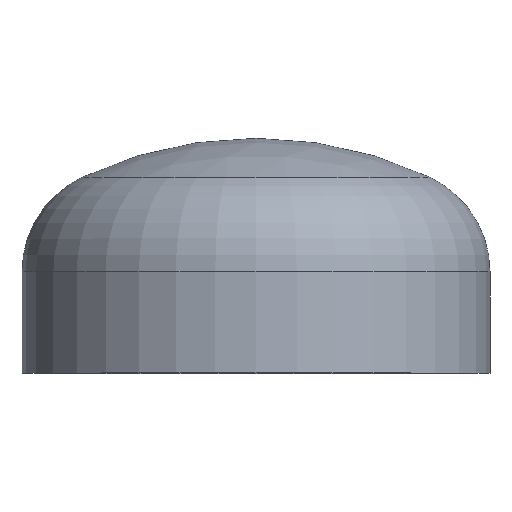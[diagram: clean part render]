
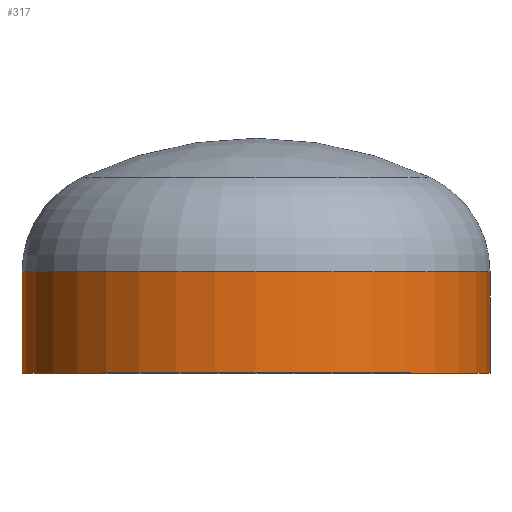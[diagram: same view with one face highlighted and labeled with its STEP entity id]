
A CAD part, top view. The second image highlights one B-rep face of the part: STEP entity #317.
In plain terms, the highlighted cylindrical face has radius 300 mm (diameter 600 mm), a partial arc.
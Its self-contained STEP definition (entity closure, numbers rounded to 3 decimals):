
#19 = AXIS2_PLACEMENT_3D ( 'NONE', #400, #181, #49 ) ;
#33 = EDGE_LOOP ( 'NONE', ( #127, #70, #171, #50 ) ) ;
#40 = VECTOR ( 'NONE', #248, 1000. ) ;
#49 = DIRECTION ( 'NONE',  ( 1., 0., 0. ) ) ;
#50 = ORIENTED_EDGE ( 'NONE', *, *, #86, .F. ) ;
#54 = AXIS2_PLACEMENT_3D ( 'NONE', #307, #305, #185 ) ;
#61 = AXIS2_PLACEMENT_3D ( 'NONE', #270, #380, #383 ) ;
#70 = ORIENTED_EDGE ( 'NONE', *, *, #298, .T. ) ;
#81 = VERTEX_POINT ( 'NONE', #255 ) ;
#86 = EDGE_CURVE ( 'NONE', #113, #81, #209, .T. ) ;
#89 = EDGE_CURVE ( 'NONE', #81, #138, #111, .T. ) ;
#97 = EDGE_CURVE ( 'NONE', #113, #164, #101, .T. ) ;
#101 = CIRCLE ( 'NONE', #54, 300. ) ;
#111 = CIRCLE ( 'NONE', #61, 300. ) ;
#113 = VERTEX_POINT ( 'NONE', #336 ) ;
#127 = ORIENTED_EDGE ( 'NONE', *, *, #97, .T. ) ;
#138 = VERTEX_POINT ( 'NONE', #219 ) ;
#164 = VERTEX_POINT ( 'NONE', #214 ) ;
#171 = ORIENTED_EDGE ( 'NONE', *, *, #89, .F. ) ;
#175 = LINE ( 'NONE', #249, #40 ) ;
#181 = DIRECTION ( 'NONE',  ( 0., -1., 0. ) ) ;
#185 = DIRECTION ( 'NONE',  ( 1., 0., 0. ) ) ;
#209 = LINE ( 'NONE', #351, #396 ) ;
#214 = CARTESIAN_POINT ( 'NONE',  ( -300., 130., 0. ) ) ;
#219 = CARTESIAN_POINT ( 'NONE',  ( -300., 0., 0. ) ) ;
#248 = DIRECTION ( 'NONE',  ( 0., -1., 0. ) ) ;
#249 = CARTESIAN_POINT ( 'NONE',  ( -300., 0., 0. ) ) ;
#255 = CARTESIAN_POINT ( 'NONE',  ( 300., 0., 0. ) ) ;
#270 = CARTESIAN_POINT ( 'NONE',  ( 0., 0., 0. ) ) ;
#283 = CYLINDRICAL_SURFACE ( 'NONE', #19, 300. ) ;
#298 = EDGE_CURVE ( 'NONE', #164, #138, #175, .T. ) ;
#305 = DIRECTION ( 'NONE',  ( 0., -1., 0. ) ) ;
#307 = CARTESIAN_POINT ( 'NONE',  ( 0., 130., 0. ) ) ;
#317 = ADVANCED_FACE ( 'NONE', ( #364 ), #283, .T. ) ;
#336 = CARTESIAN_POINT ( 'NONE',  ( 300., 130., 0. ) ) ;
#351 = CARTESIAN_POINT ( 'NONE',  ( 300., 0., 0. ) ) ;
#356 = DIRECTION ( 'NONE',  ( 0., -1., 0. ) ) ;
#364 = FACE_OUTER_BOUND ( 'NONE', #33, .T. ) ;
#380 = DIRECTION ( 'NONE',  ( 0., -1., 0. ) ) ;
#383 = DIRECTION ( 'NONE',  ( 1., 0., 0. ) ) ;
#396 = VECTOR ( 'NONE', #356, 1000. ) ;
#400 = CARTESIAN_POINT ( 'NONE',  ( 0., 0., 0. ) ) ;
